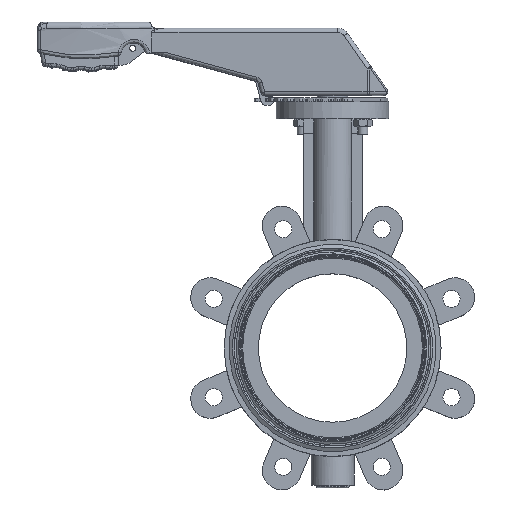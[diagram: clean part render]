
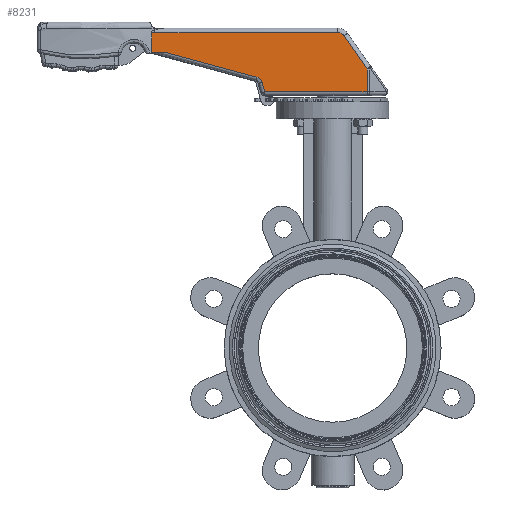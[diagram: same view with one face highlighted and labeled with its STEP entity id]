
A CAD part, top view. The second image highlights one B-rep face of the part: STEP entity #8231.
In plain terms, the highlighted planar face has unit normal (-0.032, 0, 1).
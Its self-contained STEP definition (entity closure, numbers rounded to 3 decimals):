
#6270=CARTESIAN_POINT('',(-147.748,241.,15.));
#6271=VERTEX_POINT('',#6270);
#6279=CARTESIAN_POINT('',(-147.748,258.024,15.));
#6280=VERTEX_POINT('',#6279);
#6281=CARTESIAN_POINT('',(-147.748,258.024,15.));
#6282=DIRECTION('',(0.0,-1.0,0.0));
#6283=VECTOR('',#6282,17.024);
#6284=LINE('',#6281,#6283);
#6285=EDGE_CURVE('',#6280,#6271,#6284,.T.);
#6409=CARTESIAN_POINT('',(-135.547,241.,15.389));
#6410=VERTEX_POINT('',#6409);
#6418=CARTESIAN_POINT('',(-147.748,241.,15.));
#6419=DIRECTION('',(0.999,0.0,0.032));
#6420=VECTOR('',#6419,12.208);
#6421=LINE('',#6418,#6420);
#6422=EDGE_CURVE('',#6271,#6410,#6421,.T.);
#7844=CARTESIAN_POINT('',(-55.463,209.,17.939));
#7845=VERTEX_POINT('',#7844);
#7853=CARTESIAN_POINT('',(-57.53,216.702,17.873));
#7854=VERTEX_POINT('',#7853);
#7855=CARTESIAN_POINT('',(-55.463,209.,17.939));
#7856=DIRECTION('',(-0.259,0.966,-0.008));
#7857=VECTOR('',#7856,7.975);
#7858=LINE('',#7855,#7857);
#7859=EDGE_CURVE('',#7845,#7854,#7858,.T.);
#7977=CARTESIAN_POINT('',(-61.755,220.939,17.739));
#7978=VERTEX_POINT('',#7977);
#7986=CARTESIAN_POINT('',(-61.755,220.939,17.739));
#7987=DIRECTION('',(-0.965,0.262,-0.031));
#7988=VECTOR('',#7987,76.506);
#7989=LINE('',#7986,#7988);
#7990=EDGE_CURVE('',#7978,#6410,#7989,.T.);
#8021=CARTESIAN_POINT('',(-63.334,215.149,17.688));
#8022=DIRECTION('',(-0.032,0.,0.999));
#8023=DIRECTION('',(0.999,0.,0.032));
#8024=AXIS2_PLACEMENT_3D('',#8021,#8022,#8023);
#8025=ELLIPSE('',#8024,6.012,6.);
#8026=EDGE_CURVE('',#7854,#7978,#8025,.T.);
#8171=CARTESIAN_POINT('',(-147.748,266.,15.));
#8172=DIRECTION('',(-0.032,0.,0.999));
#8173=DIRECTION('',(0.0,1.0,0.0));
#8174=AXIS2_PLACEMENT_3D('',#8171,#8172,#8173);
#8175=PLANE('',#8174);
#8176=CARTESIAN_POINT('',(28.084,227.665,20.6));
#8177=VERTEX_POINT('',#8176);
#8178=CARTESIAN_POINT('',(28.084,209.,20.6));
#8179=VERTEX_POINT('',#8178);
#8180=CARTESIAN_POINT('',(28.084,227.665,20.6));
#8181=DIRECTION('',(0.0,-1.0,0.0));
#8182=VECTOR('',#8181,18.665);
#8183=LINE('',#8180,#8182);
#8184=EDGE_CURVE('',#8177,#8179,#8183,.T.);
#8185=ORIENTED_EDGE('',*,*,#8184,.F.);
#8186=CARTESIAN_POINT('',(9.174,254.671,19.998));
#8187=VERTEX_POINT('',#8186);
#8188=CARTESIAN_POINT('',(9.174,254.671,19.998));
#8189=DIRECTION('',(0.573,-0.819,0.018));
#8190=VECTOR('',#8189,32.974);
#8191=LINE('',#8188,#8190);
#8192=EDGE_CURVE('',#8187,#8177,#8191,.T.);
#8193=ORIENTED_EDGE('',*,*,#8192,.F.);
#8194=CARTESIAN_POINT('',(3.931,257.4,19.831));
#8195=VERTEX_POINT('',#8194);
#8196=CARTESIAN_POINT('',(3.931,251.,19.831));
#8197=DIRECTION('',(0.032,0.,-0.999));
#8198=DIRECTION('',(0.999,0.,0.032));
#8199=AXIS2_PLACEMENT_3D('',#8196,#8197,#8198);
#8200=ELLIPSE('',#8199,6.403,6.4);
#8201=EDGE_CURVE('',#8195,#8187,#8200,.T.);
#8202=ORIENTED_EDGE('',*,*,#8201,.F.);
#8203=CARTESIAN_POINT('',(-144.947,257.4,15.089));
#8204=VERTEX_POINT('',#8203);
#8205=CARTESIAN_POINT('',(-144.947,257.4,15.089));
#8206=DIRECTION('',(0.999,0.0,0.032));
#8207=VECTOR('',#8206,148.954);
#8208=LINE('',#8205,#8207);
#8209=EDGE_CURVE('',#8204,#8195,#8208,.T.);
#8210=ORIENTED_EDGE('',*,*,#8209,.F.);
#8211=CARTESIAN_POINT('',(-147.748,258.024,15.));
#8212=CARTESIAN_POINT('',(-146.875,257.615,15.028));
#8213=CARTESIAN_POINT('',(-145.906,257.4,15.059));
#8214=CARTESIAN_POINT('',(-144.947,257.4,15.089));
#8215=B_SPLINE_CURVE_WITH_KNOTS('',3,(#8211,#8212,#8213,#8214),.UNSPECIFIED.,.F.,.U.,(4,4),(0.633,0.921),.UNSPECIFIED.);
#8216=EDGE_CURVE('',#6280,#8204,#8215,.T.);
#8217=ORIENTED_EDGE('',*,*,#8216,.F.);
#8218=ORIENTED_EDGE('',*,*,#6285,.T.);
#8219=ORIENTED_EDGE('',*,*,#6422,.T.);
#8220=ORIENTED_EDGE('',*,*,#7990,.F.);
#8221=ORIENTED_EDGE('',*,*,#8026,.F.);
#8222=ORIENTED_EDGE('',*,*,#7859,.F.);
#8223=CARTESIAN_POINT('',(28.084,209.,20.6));
#8224=DIRECTION('',(-0.999,0.0,-0.032));
#8225=VECTOR('',#8224,83.589);
#8226=LINE('',#8223,#8225);
#8227=EDGE_CURVE('',#8179,#7845,#8226,.T.);
#8228=ORIENTED_EDGE('',*,*,#8227,.F.);
#8229=EDGE_LOOP('',(#8185,#8193,#8202,#8210,#8217,#8218,#8219,#8220,#8221,#8222,#8228));
#8230=FACE_OUTER_BOUND('',#8229,.T.);
#8231=ADVANCED_FACE('',(#8230),#8175,.T.);
